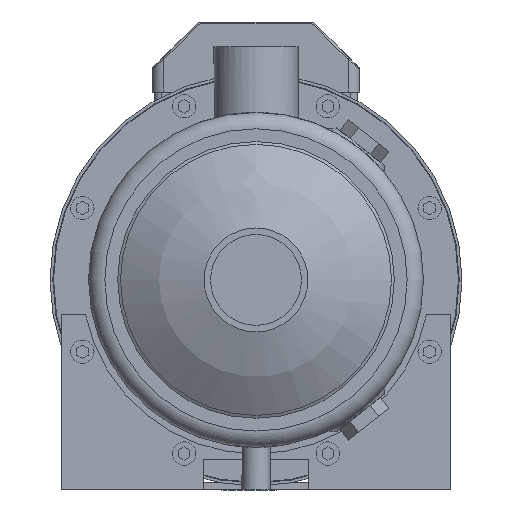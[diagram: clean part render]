
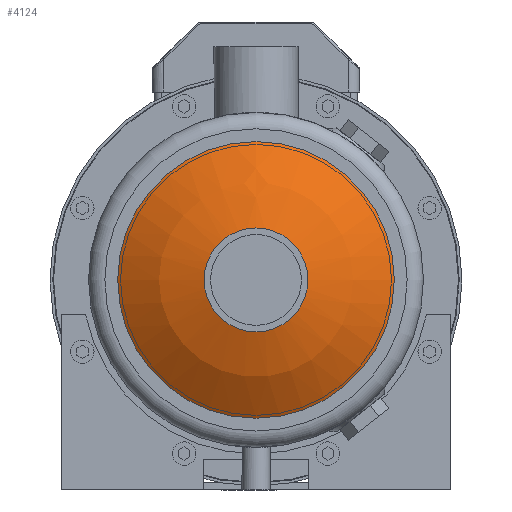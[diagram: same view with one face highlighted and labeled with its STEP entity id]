
A CAD part, left-side view. The second image highlights one B-rep face of the part: STEP entity #4124.
In plain terms, the highlighted spherical face has radius 100 mm.
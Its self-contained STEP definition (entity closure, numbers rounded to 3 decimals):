
#63=SPHERICAL_SURFACE('',#5530,100.);
#953=ORIENTED_EDGE('',*,*,#2066,.T.);
#954=ORIENTED_EDGE('',*,*,#2065,.F.);
#2065=EDGE_CURVE('',#2626,#2626,#3010,.T.);
#2066=EDGE_CURVE('',#2627,#2627,#3011,.T.);
#2626=VERTEX_POINT('',#7397);
#2627=VERTEX_POINT('',#7400);
#3010=CIRCLE('',#5529,22.25);
#3011=CIRCLE('',#5531,59.25);
#3198=EDGE_LOOP('',(#953));
#3199=EDGE_LOOP('',(#954));
#3587=FACE_BOUND('',#3198,.T.);
#3588=FACE_BOUND('',#3199,.T.);
#4124=ADVANCED_FACE('',(#3587,#3588),#63,.T.);
#5529=AXIS2_PLACEMENT_3D('',#7396,#6035,#6036);
#5530=AXIS2_PLACEMENT_3D('',#7398,#6037,#6038);
#5531=AXIS2_PLACEMENT_3D('',#7399,#6039,#6040);
#6035=DIRECTION('',(-1.,0.,0.));
#6036=DIRECTION('',(0.,0.,1.));
#6037=DIRECTION('',(-1.,0.,0.));
#6038=DIRECTION('',(0.,0.,1.));
#6039=DIRECTION('',(-1.,0.,0.));
#6040=DIRECTION('',(0.,0.,1.));
#7396=CARTESIAN_POINT('',(-163.293,0.,0.));
#7397=CARTESIAN_POINT('',(-163.293,0.,22.25));
#7398=CARTESIAN_POINT('',(-65.8,0.,0.));
#7399=CARTESIAN_POINT('',(-146.357,0.,0.));
#7400=CARTESIAN_POINT('',(-146.357,0.,59.25));
